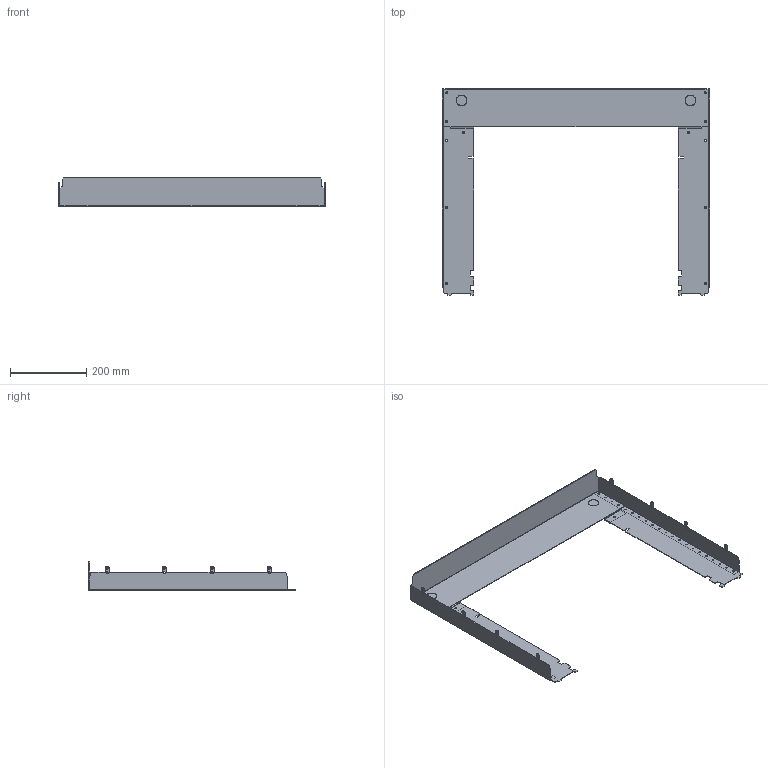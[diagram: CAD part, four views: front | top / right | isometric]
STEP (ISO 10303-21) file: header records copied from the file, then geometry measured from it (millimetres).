
FILE_DESCRIPTION(('CAx-IF Rec.Pracs.---Model Styling and Organization---1.2---2011-12-15','CAx-IF Rec.Pracs.---Geometric and Assembly Validation Properties---4.1---2014-06-16','CAx-IF Rec.Pracs.---PMI Polyline Presentation---2.0---2013-05-24'),'2;1');
FILE_NAME('R5FRC7V81525F4P.stp','2021-07-29T02:06:27+03:00',(''),(''),'STEP Interface 4.4 by CT CoreTechnologie','3D_Evolution4.4 by CT CoreTechnologie','');
FILE_SCHEMA(('AUTOMOTIVE_DESIGN { 1 0 10303 214 1 1 1 1 }'));
Length unit declared in the file: millimetre
Products named in the file (1): R5FRC6V81525F4P
Bounding box: 700 x 540 x 76.5 mm (x, y, z)
Surface area: 529703.3 mm2 (no closed solid volume)
Topology: 0 solids, 7 shells, 392 faces, 1110 edges, 732 vertices
Faces by surface type: plane 206, cylinder 186
Entity records: 13104 total; most frequent: DIRECTION 2268, CARTESIAN_POINT 2235, ORIENTED_EDGE 2220, EDGE_CURVE 1110, AXIS2_PLACEMENT_3D 765, VECTOR 738, LINE 738, VERTEX_POINT 732
